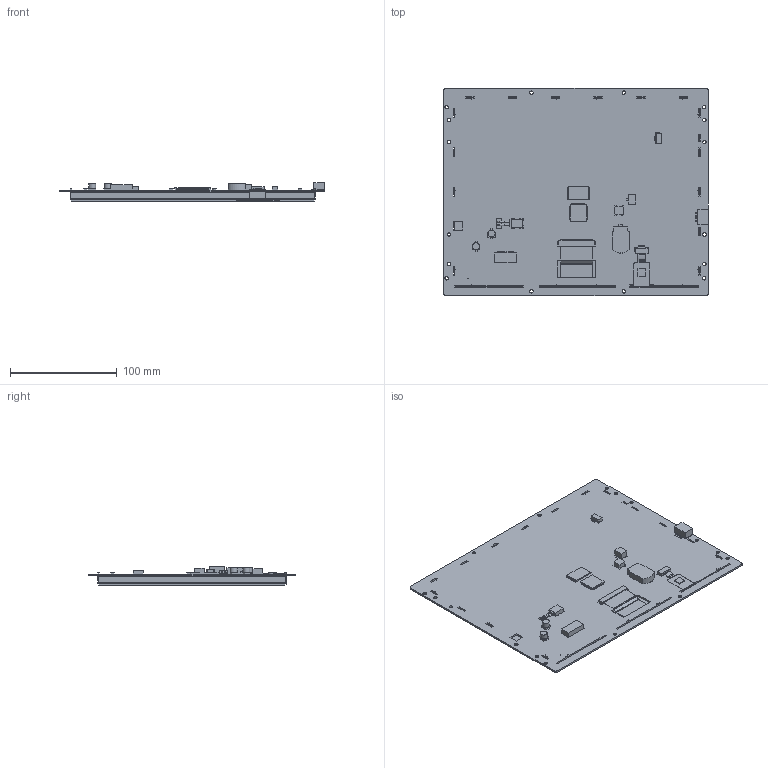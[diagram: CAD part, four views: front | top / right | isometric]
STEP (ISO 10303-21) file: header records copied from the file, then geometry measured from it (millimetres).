
FILE_DESCRIPTION(/* description */ (''),/* implementation_level */ '2;1');
FILE_NAME(/* name */ '3D_SDWe104T87C.stp',/* time_stamp */ '2020-09-25T16:02:25+08:00',/* author */ (''),/* organization */ (''),/* preprocessor_version */ 'ST-DEVELOPER v15',/* originating_system */ 'SIEMENS PLM Software NX 8.5',/* authorisation */ '');
FILE_SCHEMA (('AP203_CONFIGURATION_CONTROLLED_3D_DESIGN_OF_MECHANICAL_PARTS_AND_ASSEMBLIES_MIM_LF { 1 0 10303 403 2 1 2}'));
Length unit declared in the file: millimetre
Products named in the file (1): SDWe104T87
Bounding box: 247.8 x 193.7 x 17.62 mm (x, y, z)
Volume: 389853.7 mm3; surface area: 370844 mm2
Topology: 362 solids, 362 shells, 2420 faces, 5086 edges, 3390 vertices
Faces by surface type: plane 2285, cylinder 117, extrusion 10, torus 8
Full cylindrical faces by diameter (mm): 0.406 x1, 0.711 x1, 1 x8, 3.2 x16, 6.565 x2
Entity records: 68188 total; most frequent: CARTESIAN_POINT 11407, ORIENTED_EDGE 10096, DIRECTION 10066, EDGE_CURVE 5048, VECTOR 4732, LINE 4722, VERTEX_POINT 3386, AXIS2_PLACEMENT_3D 2667
